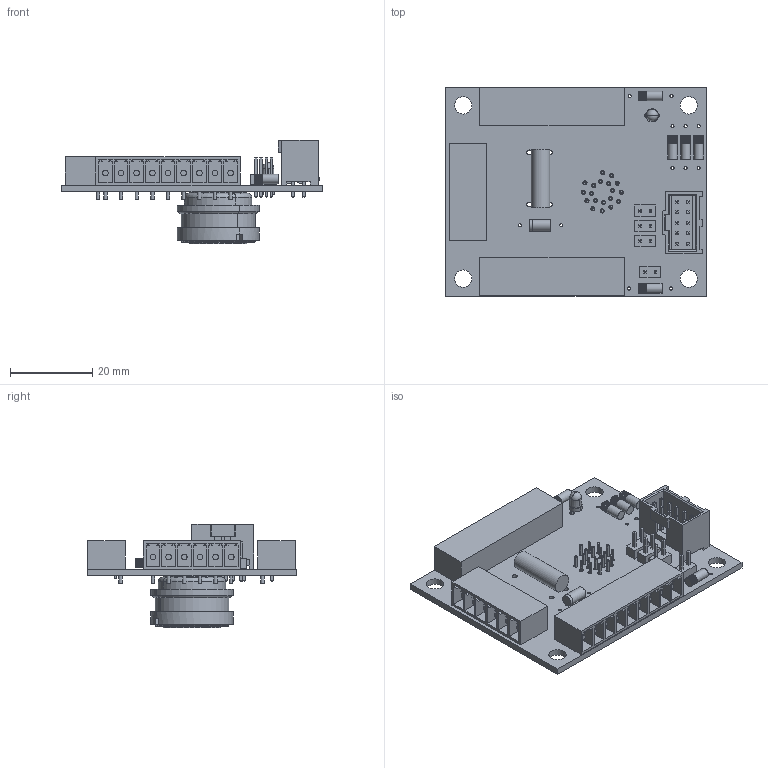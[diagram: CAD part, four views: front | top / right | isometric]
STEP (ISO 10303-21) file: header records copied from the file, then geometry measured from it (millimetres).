
FILE_DESCRIPTION(/* description */ ('Alibre Inc.'),/* implementation_level */ '2;1');
FILE_NAME(/* name */ 'export0',/* time_stamp */ '2016-06-17T10:32:29-07:00',/* author */ (''),/* organization */ (''),/* preprocessor_version */ 'ST-DEVELOPER v14',/* originating_system */ 'Alibre',/* authorisation */ '');
FILE_SCHEMA (('AUTOMOTIVE_DESIGN'));
Length unit declared in the file: millimetre
Bounding box: 63.5 x 50.8 x 25.07 mm (x, y, z)
Volume: 12274.7 mm3; surface area: 20097 mm2
Topology: 65 solids, 65 shells, 1221 faces, 2611 edges, 1688 vertices
Faces by surface type: plane 888, cylinder 311, cone 16, torus 4, sphere 2
Full cylindrical faces by diameter (mm): 0.762 x12, 0.813 x24, 1 x33, 1.016 x10, 1.143 x10, 1.168 x4, 1.4 x29, 1.524 x24, 2.286 x45, 2.794 x2, 4.216 x4, 4.521 x1
Entity records: 26153 total; most frequent: CARTESIAN_POINT 4293, DIRECTION 3974, ORIENTED_EDGE 3884, EDGE_CURVE 1942, AXIS2_PLACEMENT_3D 1611, VECTOR 1342, LINE 1342, VERTEX_POINT 1266
